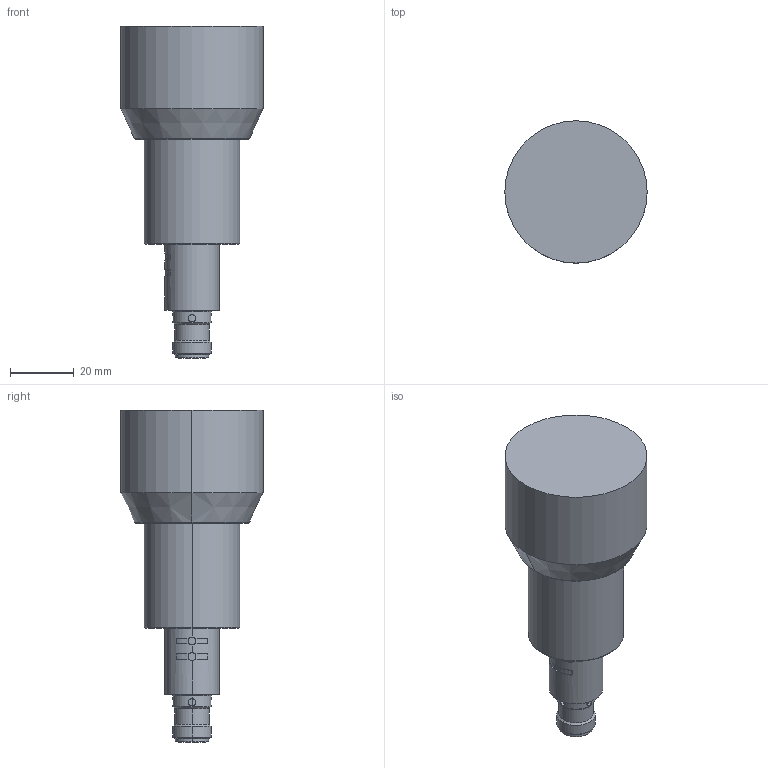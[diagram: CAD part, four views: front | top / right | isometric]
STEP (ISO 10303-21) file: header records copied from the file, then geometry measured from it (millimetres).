
FILE_DESCRIPTION (( 'STEP AP203' ), '1' );
FILE_NAME ('RU600-M30E-X2T-H1.step', '2016-08-02T18:02:54', ( 'Turck User' ), ( '' ), 'SwSTEP 2.0', 'SolidWorks 2015', '' );
FILE_SCHEMA (( 'CONFIG_CONTROL_DESIGN' ));
Length unit declared in the file: millimetre
Products named in the file (2): RU600-M30E-X2T-H1
Bounding box: 44.7 x 44.7 x 104.3 mm (x, y, z)
Volume: 82078.1 mm3; surface area: 13346.5 mm2
Topology: 1 solids, 2 shells, 94 faces, 248 edges, 159 vertices
Faces by surface type: cylinder 41, plane 26, bspline 13, cone 12, torus 2
Entity records: 3658 total; most frequent: CARTESIAN_POINT 1200, ORIENTED_EDGE 496, DIRECTION 483, EDGE_CURVE 248, AXIS2_PLACEMENT_3D 199, VERTEX_POINT 159, CIRCLE 116, EDGE_LOOP 105
